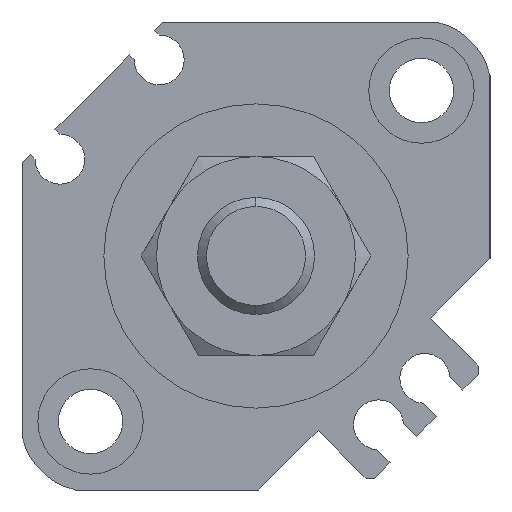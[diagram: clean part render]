
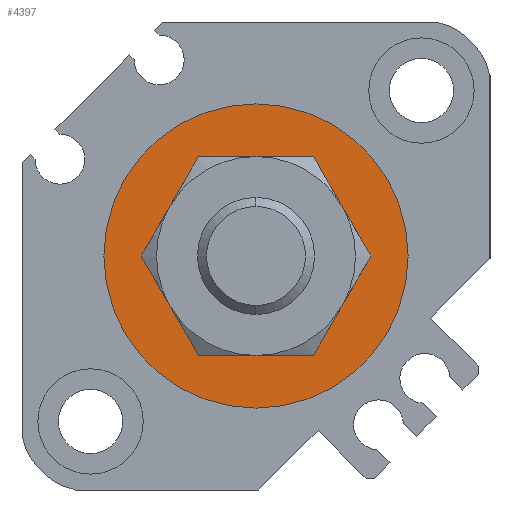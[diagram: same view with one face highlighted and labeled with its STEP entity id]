
A CAD part, left-side view. The second image highlights one B-rep face of the part: STEP entity #4397.
In plain terms, the highlighted planar face has unit normal (-1, 0, 0).
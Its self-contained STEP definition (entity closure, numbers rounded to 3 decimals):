
#75 = AXIS2_PLACEMENT_3D ( 'NONE', #1373, #5140, #1403 ) ;
#174 = CARTESIAN_POINT ( 'NONE',  ( 1.9, 0., 13. ) ) ;
#195 = DIRECTION ( 'NONE',  ( 0., 0., -1. ) ) ;
#258 = DIRECTION ( 'NONE',  ( 0., 0., -1. ) ) ;
#347 = EDGE_LOOP ( 'NONE', ( #1962, #2491 ) ) ;
#426 = FACE_OUTER_BOUND ( 'NONE', #347, .T. ) ;
#453 = AXIS2_PLACEMENT_3D ( 'NONE', #1274, #4954, #1662 ) ;
#564 = EDGE_CURVE ( 'NONE', #2234, #1055, #4700, .T. ) ;
#649 = CARTESIAN_POINT ( 'NONE',  ( 1.9, 0., 0. ) ) ;
#1055 = VERTEX_POINT ( 'NONE', #1302 ) ;
#1274 = CARTESIAN_POINT ( 'NONE',  ( 1.9, 0., 0. ) ) ;
#1302 = CARTESIAN_POINT ( 'NONE',  ( 1.9, 0., -13. ) ) ;
#1361 = DIRECTION ( 'NONE',  ( 1., 0., 0. ) ) ;
#1373 = CARTESIAN_POINT ( 'NONE',  ( 1.9, 0., 0. ) ) ;
#1403 = DIRECTION ( 'NONE',  ( 0., 0., -1. ) ) ;
#1409 = CARTESIAN_POINT ( 'NONE',  ( 1.9, 0., 0. ) ) ;
#1572 = VERTEX_POINT ( 'NONE', #2270 ) ;
#1662 = DIRECTION ( 'NONE',  ( 0., 1., 0. ) ) ;
#1884 = EDGE_CURVE ( 'NONE', #1055, #2234, #1992, .T. ) ;
#1888 = DIRECTION ( 'NONE',  ( 0., 0., -1. ) ) ;
#1947 = DIRECTION ( 'NONE',  ( 1., 0., 0. ) ) ;
#1962 = ORIENTED_EDGE ( 'NONE', *, *, #564, .F. ) ;
#1992 = CIRCLE ( 'NONE', #75, 13. ) ;
#2200 = AXIS2_PLACEMENT_3D ( 'NONE', #649, #1947, #258 ) ;
#2231 = CARTESIAN_POINT ( 'NONE',  ( 1.9, 0., 7.5 ) ) ;
#2234 = VERTEX_POINT ( 'NONE', #174 ) ;
#2270 = CARTESIAN_POINT ( 'NONE',  ( 1.9, 0., -7.5 ) ) ;
#2354 = AXIS2_PLACEMENT_3D ( 'NONE', #1409, #3113, #195 ) ;
#2365 = EDGE_CURVE ( 'NONE', #4178, #1572, #3864, .T. ) ;
#2395 = CIRCLE ( 'NONE', #3111, 7.5 ) ;
#2491 = ORIENTED_EDGE ( 'NONE', *, *, #1884, .F. ) ;
#2692 = ORIENTED_EDGE ( 'NONE', *, *, #2365, .T. ) ;
#2946 = FACE_BOUND ( 'NONE', #5128, .T. ) ;
#3111 = AXIS2_PLACEMENT_3D ( 'NONE', #4416, #1361, #1888 ) ;
#3113 = DIRECTION ( 'NONE',  ( 1., 0., 0. ) ) ;
#3864 = CIRCLE ( 'NONE', #2200, 7.5 ) ;
#4178 = VERTEX_POINT ( 'NONE', #2231 ) ;
#4397 = ADVANCED_FACE ( 'NONE', ( #426, #2946 ), #4653, .F. ) ;
#4416 = CARTESIAN_POINT ( 'NONE',  ( 1.9, 0., 0. ) ) ;
#4586 = ORIENTED_EDGE ( 'NONE', *, *, #5206, .T. ) ;
#4653 = PLANE ( 'NONE',  #453 ) ;
#4700 = CIRCLE ( 'NONE', #2354, 13. ) ;
#4954 = DIRECTION ( 'NONE',  ( 1., 0., 0. ) ) ;
#5128 = EDGE_LOOP ( 'NONE', ( #2692, #4586 ) ) ;
#5140 = DIRECTION ( 'NONE',  ( 1., 0., 0. ) ) ;
#5206 = EDGE_CURVE ( 'NONE', #1572, #4178, #2395, .T. ) ;
